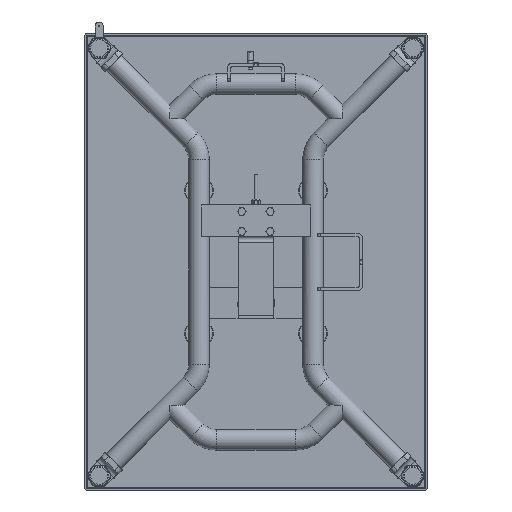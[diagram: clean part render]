
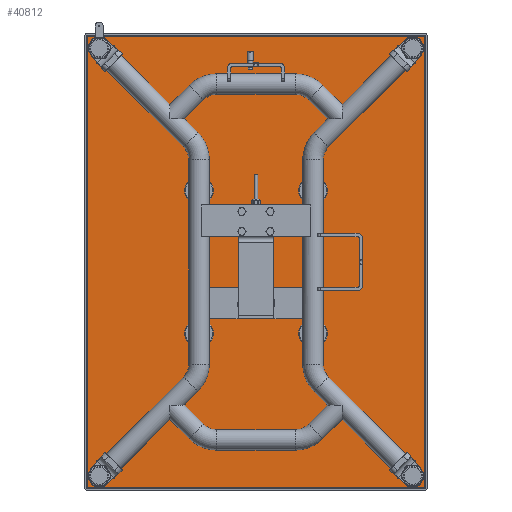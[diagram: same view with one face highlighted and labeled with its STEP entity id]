
A CAD part, front view. The second image highlights one B-rep face of the part: STEP entity #40812.
In plain terms, the highlighted planar face has unit normal (0, -1, 0).
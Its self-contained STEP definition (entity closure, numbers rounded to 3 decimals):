
#9328=CARTESIAN_POINT('',(-275.,65.7,375.));
#9329=DIRECTION('',(0.,1.,0.));
#9330=DIRECTION('',(0.,0.,1.));
#9331=AXIS2_PLACEMENT_3D('',#9328,#9329,#9330);
#9333=CARTESIAN_POINT('',(-275.,65.7,375.));
#9334=DIRECTION('',(0.,1.,0.));
#9335=DIRECTION('',(0.,0.,-1.));
#9336=AXIS2_PLACEMENT_3D('',#9333,#9334,#9335);
#9338=CARTESIAN_POINT('',(-275.,65.7,-375.));
#9339=DIRECTION('',(0.,1.,0.));
#9340=DIRECTION('',(0.,0.,1.));
#9341=AXIS2_PLACEMENT_3D('',#9338,#9339,#9340);
#9343=CARTESIAN_POINT('',(-275.,65.7,-375.));
#9344=DIRECTION('',(0.,1.,0.));
#9345=DIRECTION('',(0.,0.,-1.));
#9346=AXIS2_PLACEMENT_3D('',#9343,#9344,#9345);
#9348=CARTESIAN_POINT('',(275.,65.7,375.));
#9349=DIRECTION('',(0.,1.,0.));
#9350=DIRECTION('',(0.,0.,1.));
#9351=AXIS2_PLACEMENT_3D('',#9348,#9349,#9350);
#9353=CARTESIAN_POINT('',(275.,65.7,375.));
#9354=DIRECTION('',(0.,1.,0.));
#9355=DIRECTION('',(0.,0.,-1.));
#9356=AXIS2_PLACEMENT_3D('',#9353,#9354,#9355);
#9358=CARTESIAN_POINT('',(275.,65.7,-375.));
#9359=DIRECTION('',(0.,1.,0.));
#9360=DIRECTION('',(0.,0.,1.));
#9361=AXIS2_PLACEMENT_3D('',#9358,#9359,#9360);
#9363=CARTESIAN_POINT('',(275.,65.7,-375.));
#9364=DIRECTION('',(0.,1.,0.));
#9365=DIRECTION('',(0.,0.,-1.));
#9366=AXIS2_PLACEMENT_3D('',#9363,#9364,#9365);
#9368=DIRECTION('',(0.,0.,1.));
#9369=VECTOR('',#9368,792.);
#9370=CARTESIAN_POINT('',(-296.,65.7,-396.));
#9371=LINE('',#9370,#9369);
#9396=DIRECTION('',(-1.,0.,0.));
#9397=VECTOR('',#9396,592.);
#9398=CARTESIAN_POINT('',(296.,65.7,-396.));
#9399=LINE('',#9398,#9397);
#9835=DIRECTION('',(0.,0.,-1.));
#9836=VECTOR('',#9835,792.);
#9837=CARTESIAN_POINT('',(296.,65.7,396.));
#9838=LINE('',#9837,#9836);
#9851=DIRECTION('',(1.,0.,0.));
#9852=VECTOR('',#9851,592.);
#9853=CARTESIAN_POINT('',(-296.,65.7,396.));
#9854=LINE('',#9853,#9852);
#20587=CARTESIAN_POINT('',(-296.,65.7,-396.));
#20588=CARTESIAN_POINT('',(-296.,65.7,396.));
#20589=VERTEX_POINT('',#20587);
#20590=VERTEX_POINT('',#20588);
#20591=CARTESIAN_POINT('',(296.,65.7,-396.));
#20592=VERTEX_POINT('',#20591);
#20593=CARTESIAN_POINT('',(296.,65.7,396.));
#20594=VERTEX_POINT('',#20593);
#21610=CARTESIAN_POINT('',(-275.,65.7,385.));
#21611=CARTESIAN_POINT('',(-275.,65.7,365.));
#21612=VERTEX_POINT('',#21610);
#21613=VERTEX_POINT('',#21611);
#21622=CARTESIAN_POINT('',(-275.,65.7,-365.));
#21623=CARTESIAN_POINT('',(-275.,65.7,-385.));
#21624=VERTEX_POINT('',#21622);
#21625=VERTEX_POINT('',#21623);
#21634=CARTESIAN_POINT('',(275.,65.7,385.));
#21635=CARTESIAN_POINT('',(275.,65.7,365.));
#21636=VERTEX_POINT('',#21634);
#21637=VERTEX_POINT('',#21635);
#21646=CARTESIAN_POINT('',(275.,65.7,-365.));
#21647=CARTESIAN_POINT('',(275.,65.7,-385.));
#21648=VERTEX_POINT('',#21646);
#21649=VERTEX_POINT('',#21647);
#40774=CARTESIAN_POINT('',(0.,65.7,0.));
#40775=DIRECTION('',(0.,1.,0.));
#40776=DIRECTION('',(0.,0.,-1.));
#40777=AXIS2_PLACEMENT_3D('',#40774,#40775,#40776);
#40778=PLANE('',#40777);
#40780=ORIENTED_EDGE('',*,*,#40779,.T.);
#40782=ORIENTED_EDGE('',*,*,#40781,.T.);
#40784=ORIENTED_EDGE('',*,*,#40783,.T.);
#40786=ORIENTED_EDGE('',*,*,#40785,.T.);
#40787=EDGE_LOOP('',(#40780,#40782,#40784,#40786));
#40788=FACE_OUTER_BOUND('',#40787,.F.);
#40790=ORIENTED_EDGE('',*,*,#40789,.F.);
#40792=ORIENTED_EDGE('',*,*,#40791,.F.);
#40793=EDGE_LOOP('',(#40790,#40792));
#40794=FACE_BOUND('',#40793,.F.);
#40796=ORIENTED_EDGE('',*,*,#40795,.F.);
#40798=ORIENTED_EDGE('',*,*,#40797,.F.);
#40799=EDGE_LOOP('',(#40796,#40798));
#40800=FACE_BOUND('',#40799,.F.);
#40802=ORIENTED_EDGE('',*,*,#40801,.F.);
#40804=ORIENTED_EDGE('',*,*,#40803,.F.);
#40805=EDGE_LOOP('',(#40802,#40804));
#40806=FACE_BOUND('',#40805,.F.);
#40807=ORIENTED_EDGE('',*,*,#40764,.F.);
#40809=ORIENTED_EDGE('',*,*,#40808,.F.);
#40810=EDGE_LOOP('',(#40807,#40809));
#40811=FACE_BOUND('',#40810,.F.);
#40812=ADVANCED_FACE('',(#40788,#40794,#40800,#40806,#40811),#40778,.F.);
#9332=CIRCLE('',#9331,10.);
#9337=CIRCLE('',#9336,10.);
#9342=CIRCLE('',#9341,10.);
#9347=CIRCLE('',#9346,10.);
#9352=CIRCLE('',#9351,10.);
#9357=CIRCLE('',#9356,10.);
#9362=CIRCLE('',#9361,10.);
#9367=CIRCLE('',#9366,10.);
#40764=EDGE_CURVE('',#21648,#21649,#9362,.T.);
#40779=EDGE_CURVE('',#20589,#20590,#9371,.T.);
#40781=EDGE_CURVE('',#20590,#20594,#9854,.T.);
#40783=EDGE_CURVE('',#20594,#20592,#9838,.T.);
#40785=EDGE_CURVE('',#20592,#20589,#9399,.T.);
#40789=EDGE_CURVE('',#21612,#21613,#9332,.T.);
#40791=EDGE_CURVE('',#21613,#21612,#9337,.T.);
#40795=EDGE_CURVE('',#21624,#21625,#9342,.T.);
#40797=EDGE_CURVE('',#21625,#21624,#9347,.T.);
#40801=EDGE_CURVE('',#21636,#21637,#9352,.T.);
#40803=EDGE_CURVE('',#21637,#21636,#9357,.T.);
#40808=EDGE_CURVE('',#21649,#21648,#9367,.T.);
